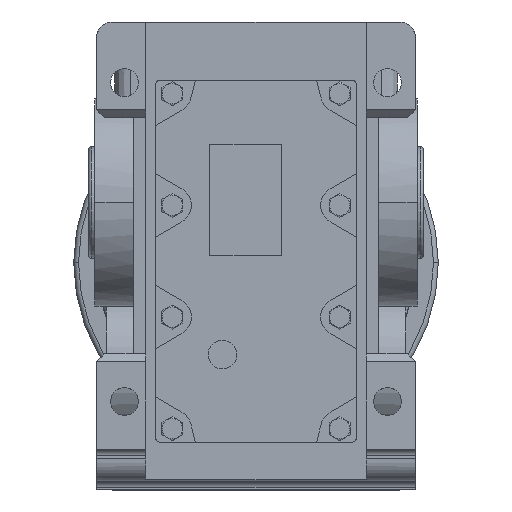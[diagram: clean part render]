
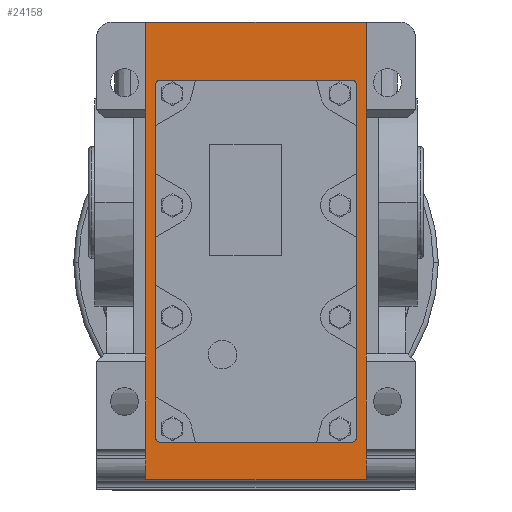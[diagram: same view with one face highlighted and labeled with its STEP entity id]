
A CAD part, top view. The second image highlights one B-rep face of the part: STEP entity #24158.
In plain terms, the highlighted planar face has unit normal (0, 0, 1).
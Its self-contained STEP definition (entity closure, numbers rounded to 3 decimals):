
#5152 = FACE_BOUND ( 'NONE', #19038, .T. ) ;
#5155 = FACE_OUTER_BOUND ( 'NONE', #19032, .T. ) ;
#14155 = VERTEX_POINT ( 'NONE', #30087 ) ;
#14170 = VERTEX_POINT ( 'NONE', #30095 ) ;
#14178 = VERTEX_POINT ( 'NONE', #30099 ) ;
#14183 = VERTEX_POINT ( 'NONE', #30102 ) ;
#14187 = VERTEX_POINT ( 'NONE', #30104 ) ;
#14189 = VERTEX_POINT ( 'NONE', #30105 ) ;
#14193 = VERTEX_POINT ( 'NONE', #30107 ) ;
#14198 = VERTEX_POINT ( 'NONE', #30110 ) ;
#14213 = VERTEX_POINT ( 'NONE', #30118 ) ;
#14253 = VERTEX_POINT ( 'NONE', #30139 ) ;
#15030 = AXIS2_PLACEMENT_3D ( 'NONE', #16054, #16063, #16064 ) ;
#16054 = CARTESIAN_POINT ( 'NONE',  ( -69., -173.874, 96.5 ) ) ;
#16058 = PLANE ( 'NONE',  #15030 ) ;
#16063 = DIRECTION ( 'NONE',  ( 0., 0., 1. ) ) ;
#16064 = DIRECTION ( 'NONE',  ( 1., 0., 0. ) ) ;
#16672 = VERTEX_POINT ( 'NONE', #29229 ) ;
#16702 = VERTEX_POINT ( 'NONE', #29242 ) ;
#19032 = EDGE_LOOP ( 'NONE', ( #28658, #28657, #28656, #28655 ) ) ;
#19038 = EDGE_LOOP ( 'NONE', ( #28666, #28665, #28664, #28663, #28662, #28661, #28660, #28659 ) ) ;
#21019 = CARTESIAN_POINT ( 'NONE',  ( -60., 76.5, 96.5 ) ) ;
#21023 = CARTESIAN_POINT ( 'NONE',  ( 60., 73.5, 96.5 ) ) ;
#21025 = DIRECTION ( 'NONE',  ( 0., 0., -1. ) ) ;
#21027 = DIRECTION ( 'NONE',  ( 1., 0., 0. ) ) ;
#21031 = DIRECTION ( 'NONE',  ( 1., 0., 0. ) ) ;
#21042 = CARTESIAN_POINT ( 'NONE',  ( -63., -147.5, 96.5 ) ) ;
#21044 = CARTESIAN_POINT ( 'NONE',  ( -60., 73.5, 96.5 ) ) ;
#21046 = DIRECTION ( 'NONE',  ( 0., 0., -1. ) ) ;
#21048 = DIRECTION ( 'NONE',  ( 1., 0., 0. ) ) ;
#21052 = DIRECTION ( 'NONE',  ( 0., 1., 0. ) ) ;
#21063 = CARTESIAN_POINT ( 'NONE',  ( 60., -150.5, 96.5 ) ) ;
#21065 = CARTESIAN_POINT ( 'NONE',  ( -60., -147.5, 96.5 ) ) ;
#21067 = DIRECTION ( 'NONE',  ( 0., 0., -1. ) ) ;
#21069 = DIRECTION ( 'NONE',  ( 1., 0., 0. ) ) ;
#21073 = DIRECTION ( 'NONE',  ( -1., 0., 0. ) ) ;
#21084 = CARTESIAN_POINT ( 'NONE',  ( 63., 73.5, 96.5 ) ) ;
#21086 = CARTESIAN_POINT ( 'NONE',  ( 60., -147.5, 96.5 ) ) ;
#21088 = DIRECTION ( 'NONE',  ( 0., 0., -1. ) ) ;
#21090 = DIRECTION ( 'NONE',  ( 1., 0., 0. ) ) ;
#21094 = DIRECTION ( 'NONE',  ( 0., -1., 0. ) ) ;
#21106 = CARTESIAN_POINT ( 'NONE',  ( -69., -173.874, 96.5 ) ) ;
#21109 = DIRECTION ( 'NONE',  ( 1., 0., 0. ) ) ;
#24158 = ADVANCED_FACE ( 'NONE', ( #5152, #5155 ), #16058, .T. ) ;
#26927 = AXIS2_PLACEMENT_3D ( 'NONE', #21023, #21025, #21027 ) ;
#26928 = AXIS2_PLACEMENT_3D ( 'NONE', #21044, #21046, #21048 ) ;
#26929 = AXIS2_PLACEMENT_3D ( 'NONE', #21065, #21067, #21069 ) ;
#26930 = AXIS2_PLACEMENT_3D ( 'NONE', #21086, #21088, #21090 ) ;
#28655 = ORIENTED_EDGE ( 'NONE', *, *, #32868, .T. ) ;
#28656 = ORIENTED_EDGE ( 'NONE', *, *, #32863, .T. ) ;
#28657 = ORIENTED_EDGE ( 'NONE', *, *, #35240, .T. ) ;
#28658 = ORIENTED_EDGE ( 'NONE', *, *, #32866, .T. ) ;
#28659 = ORIENTED_EDGE ( 'NONE', *, *, #35223, .T. ) ;
#28660 = ORIENTED_EDGE ( 'NONE', *, *, #35225, .T. ) ;
#28661 = ORIENTED_EDGE ( 'NONE', *, *, #35227, .T. ) ;
#28662 = ORIENTED_EDGE ( 'NONE', *, *, #35229, .T. ) ;
#28663 = ORIENTED_EDGE ( 'NONE', *, *, #35231, .T. ) ;
#28664 = ORIENTED_EDGE ( 'NONE', *, *, #35233, .T. ) ;
#28665 = ORIENTED_EDGE ( 'NONE', *, *, #35235, .T. ) ;
#28666 = ORIENTED_EDGE ( 'NONE', *, *, #35237, .T. ) ;
#29229 = CARTESIAN_POINT ( 'NONE',  ( -69., 113., 96.5 ) ) ;
#29242 = CARTESIAN_POINT ( 'NONE',  ( 69., 113., 96.5 ) ) ;
#30087 = CARTESIAN_POINT ( 'NONE',  ( -69., -173.874, 96.5 ) ) ;
#30095 = CARTESIAN_POINT ( 'NONE',  ( 69., -173.874, 96.5 ) ) ;
#30099 = CARTESIAN_POINT ( 'NONE',  ( 63., -147.5, 96.5 ) ) ;
#30102 = CARTESIAN_POINT ( 'NONE',  ( 60., -150.5, 96.5 ) ) ;
#30104 = CARTESIAN_POINT ( 'NONE',  ( -63., -147.5, 96.5 ) ) ;
#30105 = CARTESIAN_POINT ( 'NONE',  ( -63., 73.5, 96.5 ) ) ;
#30107 = CARTESIAN_POINT ( 'NONE',  ( 60., 76.5, 96.5 ) ) ;
#30110 = CARTESIAN_POINT ( 'NONE',  ( -60., 76.5, 96.5 ) ) ;
#30118 = CARTESIAN_POINT ( 'NONE',  ( -60., -150.5, 96.5 ) ) ;
#30139 = CARTESIAN_POINT ( 'NONE',  ( 63., 73.5, 96.5 ) ) ;
#32863 = EDGE_CURVE ( 'NONE', #14170, #16702, #39757, .T. ) ;
#32866 = EDGE_CURVE ( 'NONE', #16672, #14155, #39755, .T. ) ;
#32868 = EDGE_CURVE ( 'NONE', #16702, #16672, #39761, .T. ) ;
#35223 = EDGE_CURVE ( 'NONE', #14193, #14253, #40165, .T. ) ;
#35225 = EDGE_CURVE ( 'NONE', #14198, #14193, #40171, .T. ) ;
#35227 = EDGE_CURVE ( 'NONE', #14189, #14198, #40176, .T. ) ;
#35229 = EDGE_CURVE ( 'NONE', #14187, #14189, #40172, .T. ) ;
#35231 = EDGE_CURVE ( 'NONE', #14213, #14187, #40183, .T. ) ;
#35233 = EDGE_CURVE ( 'NONE', #14183, #14213, #40179, .T. ) ;
#35235 = EDGE_CURVE ( 'NONE', #14178, #14183, #40190, .T. ) ;
#35237 = EDGE_CURVE ( 'NONE', #14253, #14178, #40186, .T. ) ;
#35240 = EDGE_CURVE ( 'NONE', #14155, #14170, #40199, .T. ) ;
#39496 = CARTESIAN_POINT ( 'NONE',  ( -69., 113., 96.5 ) ) ;
#39505 = CARTESIAN_POINT ( 'NONE',  ( 69., -173.874, 96.5 ) ) ;
#39507 = DIRECTION ( 'NONE',  ( 0., 1., 0. ) ) ;
#39508 = DIRECTION ( 'NONE',  ( 0., -1., 0. ) ) ;
#39509 = CARTESIAN_POINT ( 'NONE',  ( 69., 113., 96.5 ) ) ;
#39510 = DIRECTION ( 'NONE',  ( -1., 0., 0. ) ) ;
#39755 = LINE ( 'NONE', #39496, #39762 ) ;
#39757 = LINE ( 'NONE', #39505, #39760 ) ;
#39760 = VECTOR ( 'NONE', #39507, 1000. ) ;
#39761 = LINE ( 'NONE', #39509, #39764 ) ;
#39762 = VECTOR ( 'NONE', #39508, 1000. ) ;
#39764 = VECTOR ( 'NONE', #39510, 1000. ) ;
#40165 = CIRCLE ( 'NONE', #26927, 3. ) ;
#40171 = LINE ( 'NONE', #21019, #40175 ) ;
#40172 = LINE ( 'NONE', #21042, #40182 ) ;
#40175 = VECTOR ( 'NONE', #21031, 1000. ) ;
#40176 = CIRCLE ( 'NONE', #26928, 3. ) ;
#40179 = LINE ( 'NONE', #21063, #40189 ) ;
#40182 = VECTOR ( 'NONE', #21052, 1000. ) ;
#40183 = CIRCLE ( 'NONE', #26929, 3. ) ;
#40186 = LINE ( 'NONE', #21084, #40196 ) ;
#40189 = VECTOR ( 'NONE', #21073, 1000. ) ;
#40190 = CIRCLE ( 'NONE', #26930, 3. ) ;
#40196 = VECTOR ( 'NONE', #21094, 1000. ) ;
#40199 = LINE ( 'NONE', #21106, #40202 ) ;
#40202 = VECTOR ( 'NONE', #21109, 1000. ) ;
